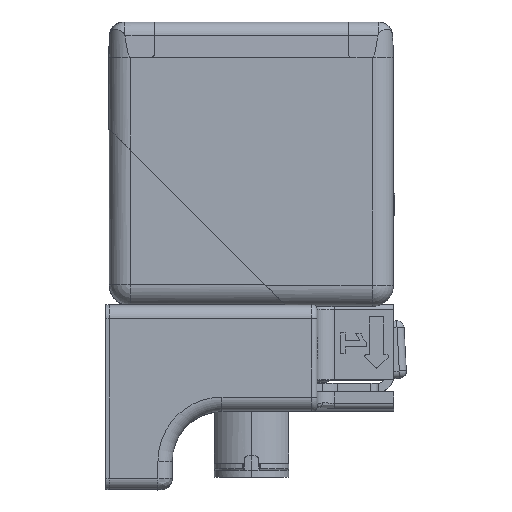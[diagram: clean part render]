
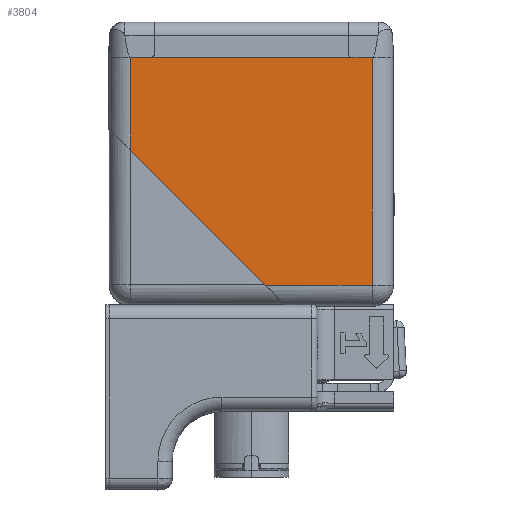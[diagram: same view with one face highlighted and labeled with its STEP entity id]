
A CAD part, top view. The second image highlights one B-rep face of the part: STEP entity #3804.
In plain terms, the highlighted planar face has unit normal (0.002, -0.002, 1).
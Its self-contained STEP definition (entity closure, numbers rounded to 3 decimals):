
#92 = DIRECTION ( 'NONE',  ( 0., 1., 0. ) ) ;
#999 = CARTESIAN_POINT ( 'NONE',  ( 17., 35., 20. ) ) ;
#1240 = LINE ( 'NONE', #36022, #34109 ) ;
#1314 = VERTEX_POINT ( 'NONE', #28481 ) ;
#1445 = VERTEX_POINT ( 'NONE', #26355 ) ;
#2377 = DIRECTION ( 'NONE',  ( 0., -1., 0. ) ) ;
#2522 = VECTOR ( 'NONE', #92, 1000. ) ;
#2678 = EDGE_CURVE ( 'NONE', #1314, #20969, #5143, .T. ) ;
#3324 = DIRECTION ( 'NONE',  ( 0.707, -0.707, 0. ) ) ;
#3804 = ADVANCED_FACE ( 'NONE', ( #36892 ), #33816, .F. ) ;
#4234 = CARTESIAN_POINT ( 'NONE',  ( 17.34, 2.68, 20. ) ) ;
#5075 = EDGE_LOOP ( 'NONE', ( #31147, #30448, #11469, #7403, #31216, #26486, #17004 ) ) ;
#5143 = LINE ( 'NONE', #37411, #13836 ) ;
#6430 = AXIS2_PLACEMENT_3D ( 'NONE', #4234, #33449, #13087 ) ;
#7403 = ORIENTED_EDGE ( 'NONE', *, *, #24714, .F. ) ;
#7681 = EDGE_CURVE ( 'NONE', #20969, #12602, #1240, .T. ) ;
#8304 = VECTOR ( 'NONE', #16169, 1000. ) ;
#9518 = DIRECTION ( 'NONE',  ( 1., 0., 0. ) ) ;
#11469 = ORIENTED_EDGE ( 'NONE', *, *, #2678, .F. ) ;
#12602 = VERTEX_POINT ( 'NONE', #14369 ) ;
#13087 = DIRECTION ( 'NONE',  ( 0., -1., 0. ) ) ;
#13267 = LINE ( 'NONE', #24971, #23409 ) ;
#13836 = VECTOR ( 'NONE', #33957, 1000. ) ;
#14353 = EDGE_CURVE ( 'NONE', #18540, #32488, #24429, .T. ) ;
#14369 = CARTESIAN_POINT ( 'NONE',  ( 14.15, 35., 20. ) ) ;
#14447 = EDGE_CURVE ( 'NONE', #12602, #33753, #15975, .T. ) ;
#15975 = LINE ( 'NONE', #21754, #8304 ) ;
#16169 = DIRECTION ( 'NONE',  ( 1., 0., 0. ) ) ;
#17004 = ORIENTED_EDGE ( 'NONE', *, *, #21656, .F. ) ;
#18540 = VERTEX_POINT ( 'NONE', #22241 ) ;
#19675 = LINE ( 'NONE', #22558, #27553 ) ;
#19942 = VECTOR ( 'NONE', #3324, 1000. ) ;
#20969 = VERTEX_POINT ( 'NONE', #37376 ) ;
#21656 = EDGE_CURVE ( 'NONE', #33753, #1445, #19675, .T. ) ;
#21754 = CARTESIAN_POINT ( 'NONE',  ( 17.34, 35., 20. ) ) ;
#22241 = CARTESIAN_POINT ( 'NONE',  ( -17., 22., 20. ) ) ;
#22558 = CARTESIAN_POINT ( 'NONE',  ( 17., 2.68, 20. ) ) ;
#23409 = VECTOR ( 'NONE', #30554, 1000. ) ;
#24429 = LINE ( 'NONE', #30004, #19942 ) ;
#24714 = EDGE_CURVE ( 'NONE', #18540, #1314, #34855, .T. ) ;
#24971 = CARTESIAN_POINT ( 'NONE',  ( 1.85, 3., 20. ) ) ;
#26355 = CARTESIAN_POINT ( 'NONE',  ( 17., 3., 20. ) ) ;
#26486 = ORIENTED_EDGE ( 'NONE', *, *, #34772, .F. ) ;
#27553 = VECTOR ( 'NONE', #2377, 1000. ) ;
#28481 = CARTESIAN_POINT ( 'NONE',  ( -17., 35., 20. ) ) ;
#30004 = CARTESIAN_POINT ( 'NONE',  ( 5.25, -0.25, 20. ) ) ;
#30448 = ORIENTED_EDGE ( 'NONE', *, *, #7681, .F. ) ;
#30554 = DIRECTION ( 'NONE',  ( -1., 0., 0. ) ) ;
#31147 = ORIENTED_EDGE ( 'NONE', *, *, #14447, .F. ) ;
#31216 = ORIENTED_EDGE ( 'NONE', *, *, #14353, .T. ) ;
#32488 = VERTEX_POINT ( 'NONE', #35140 ) ;
#33449 = DIRECTION ( 'NONE',  ( 0., 0., -1. ) ) ;
#33753 = VERTEX_POINT ( 'NONE', #999 ) ;
#33816 = PLANE ( 'NONE',  #6430 ) ;
#33957 = DIRECTION ( 'NONE',  ( 1., 0., 0. ) ) ;
#34109 = VECTOR ( 'NONE', #9518, 1000. ) ;
#34772 = EDGE_CURVE ( 'NONE', #1445, #32488, #13267, .T. ) ;
#34855 = LINE ( 'NONE', #37566, #2522 ) ;
#35140 = CARTESIAN_POINT ( 'NONE',  ( 2., 3., 20. ) ) ;
#36022 = CARTESIAN_POINT ( 'NONE',  ( 17.34, 35., 20. ) ) ;
#36892 = FACE_OUTER_BOUND ( 'NONE', #5075, .T. ) ;
#37376 = CARTESIAN_POINT ( 'NONE',  ( -14.15, 35., 20. ) ) ;
#37411 = CARTESIAN_POINT ( 'NONE',  ( 17.34, 35., 20. ) ) ;
#37566 = CARTESIAN_POINT ( 'NONE',  ( -17., 2.68, 20. ) ) ;
